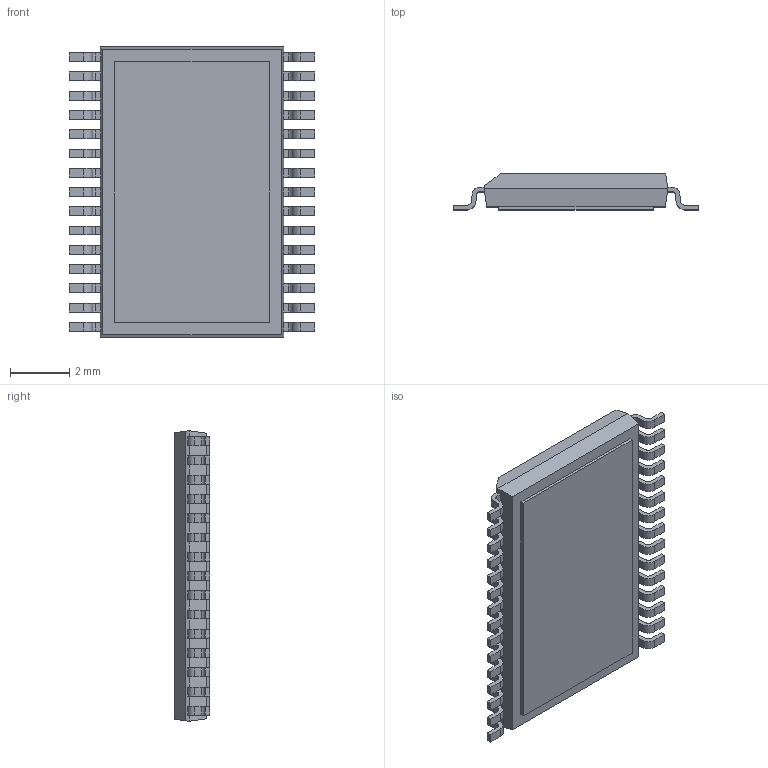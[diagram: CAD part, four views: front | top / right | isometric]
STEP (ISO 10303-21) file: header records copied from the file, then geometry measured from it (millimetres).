
FILE_DESCRIPTION (( 'STEP AP214' ), '1' );
FILE_NAME ('TSOP65P810X120-30TP_MO-153.DBT-1.STEP', '2014-10-29T08:20:27', ( 'Tester2' ), ( '' ), 'SwSTEP 2.0', 'SolidWorks 2012', '' );
FILE_SCHEMA (( 'AUTOMOTIVE_DESIGN' ));
Length unit declared in the file: millimetre
Products named in the file (1): TSOP65P810X120-30TP_MO-153.DBT-1
Bounding box: 8.3 x 1.2 x 9.8 mm (x, y, z)
Volume: 71.1 mm3; surface area: 192.1 mm2
Topology: 1 solids, 1 shells, 409 faces, 1211 edges, 806 vertices
Faces by surface type: plane 287, cylinder 122
Entity records: 18029 total; most frequent: CARTESIAN_POINT 2427, ORIENTED_EDGE 2422, DIRECTION 2275, EDGE_CURVE 1211, VECTOR 967, LINE 967, VERTEX_POINT 806, AXIS2_PLACEMENT_3D 654
